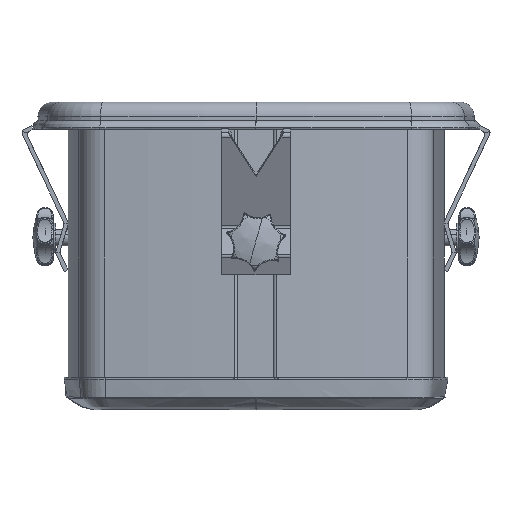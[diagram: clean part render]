
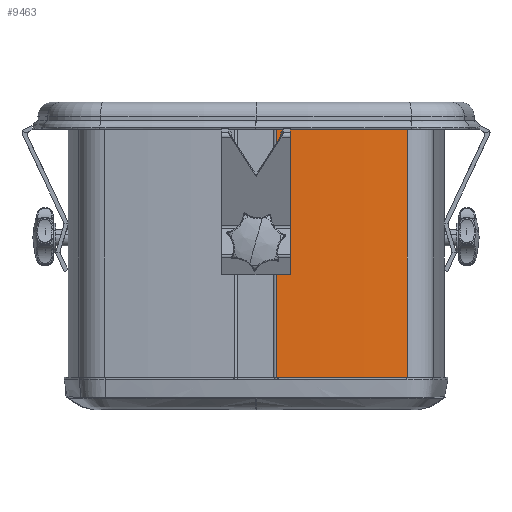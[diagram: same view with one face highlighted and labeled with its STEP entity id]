
A CAD part, left-side view. The second image highlights one B-rep face of the part: STEP entity #9463.
In plain terms, the highlighted cylindrical face has radius 562 mm (diameter 1124 mm), a partial arc.
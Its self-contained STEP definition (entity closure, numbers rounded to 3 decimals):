
#2874 = CARTESIAN_POINT ( 'NONE',  ( 429.926, 0.553, 122.5 ) ) ;
#3108 = VERTEX_POINT ( 'NONE', #68601 ) ;
#3361 = VERTEX_POINT ( 'NONE', #11844 ) ;
#3365 = CARTESIAN_POINT ( 'NONE',  ( -131.973, -10.124, 122.5 ) ) ;
#6149 = EDGE_CURVE ( 'NONE', #3108, #14094, #6996, .T. ) ;
#6996 = CIRCLE ( 'NONE', #47714, 562. ) ;
#7142 = CIRCLE ( 'NONE', #66748, 562. ) ;
#8051 = VECTOR ( 'NONE', #37586, 1000. ) ;
#9463 = ADVANCED_FACE ( 'NONE', ( #32556 ), #61040, .T. ) ;
#10727 = DIRECTION ( 'NONE',  ( -1., 0., 0. ) ) ;
#11844 = CARTESIAN_POINT ( 'NONE',  ( -131.973, -10.124, 0. ) ) ;
#14094 = VERTEX_POINT ( 'NONE', #32459 ) ;
#15122 = VERTEX_POINT ( 'NONE', #40311 ) ;
#16962 = DIRECTION ( 'NONE',  ( 1., 0., 0. ) ) ;
#17027 = LINE ( 'NONE', #54938, #21788 ) ;
#21767 = DIRECTION ( 'NONE',  ( 0., 0., -1. ) ) ;
#21788 = VECTOR ( 'NONE', #21767, 1000. ) ;
#22450 = EDGE_CURVE ( 'NONE', #3361, #15122, #7142, .T. ) ;
#23709 = ORIENTED_EDGE ( 'NONE', *, *, #42619, .T. ) ;
#31335 = ORIENTED_EDGE ( 'NONE', *, *, #22450, .T. ) ;
#32459 = CARTESIAN_POINT ( 'NONE',  ( -127.015, -74.688, 122.5 ) ) ;
#32556 = FACE_OUTER_BOUND ( 'NONE', #61514, .T. ) ;
#33164 = AXIS2_PLACEMENT_3D ( 'NONE', #72036, #55537, #10727 ) ;
#33963 = ORIENTED_EDGE ( 'NONE', *, *, #6149, .F. ) ;
#37586 = DIRECTION ( 'NONE',  ( 0., 0., -1. ) ) ;
#40311 = CARTESIAN_POINT ( 'NONE',  ( -127.015, -74.688, 0. ) ) ;
#41146 = DIRECTION ( 'NONE',  ( 0., 0., 1. ) ) ;
#42619 = EDGE_CURVE ( 'NONE', #3108, #3361, #59150, .T. ) ;
#47714 = AXIS2_PLACEMENT_3D ( 'NONE', #2874, #41146, #63816 ) ;
#54138 = EDGE_CURVE ( 'NONE', #14094, #15122, #17027, .T. ) ;
#54938 = CARTESIAN_POINT ( 'NONE',  ( -127.015, -74.688, 122.5 ) ) ;
#55537 = DIRECTION ( 'NONE',  ( 0., 0., -1. ) ) ;
#59150 = LINE ( 'NONE', #3365, #8051 ) ;
#61040 = CYLINDRICAL_SURFACE ( 'NONE', #33164, 562. ) ;
#61099 = DIRECTION ( 'NONE',  ( 0., 0., 1. ) ) ;
#61514 = EDGE_LOOP ( 'NONE', ( #33963, #23709, #31335, #72115 ) ) ;
#62565 = CARTESIAN_POINT ( 'NONE',  ( 429.926, 0.553, 0. ) ) ;
#63816 = DIRECTION ( 'NONE',  ( 1., 0., 0. ) ) ;
#66748 = AXIS2_PLACEMENT_3D ( 'NONE', #62565, #61099, #16962 ) ;
#68601 = CARTESIAN_POINT ( 'NONE',  ( -131.973, -10.124, 122.5 ) ) ;
#72036 = CARTESIAN_POINT ( 'NONE',  ( 429.926, 0.553, 122.5 ) ) ;
#72115 = ORIENTED_EDGE ( 'NONE', *, *, #54138, .F. ) ;
